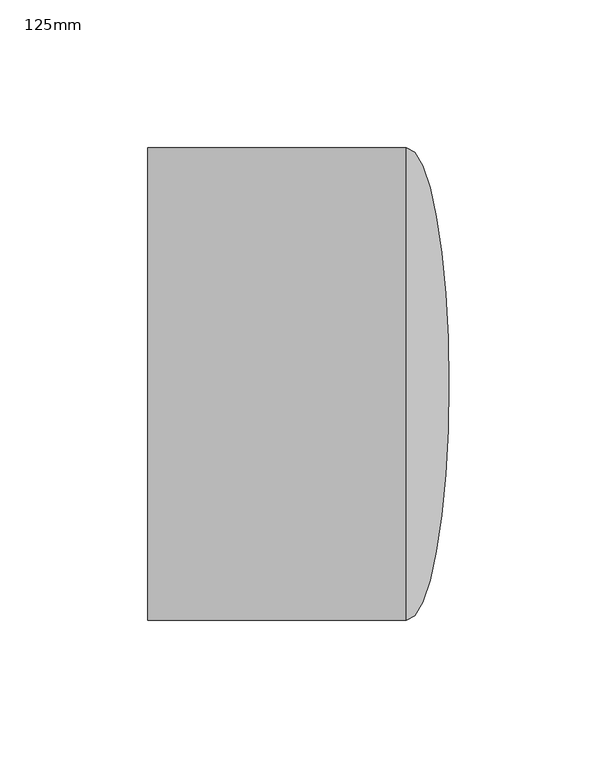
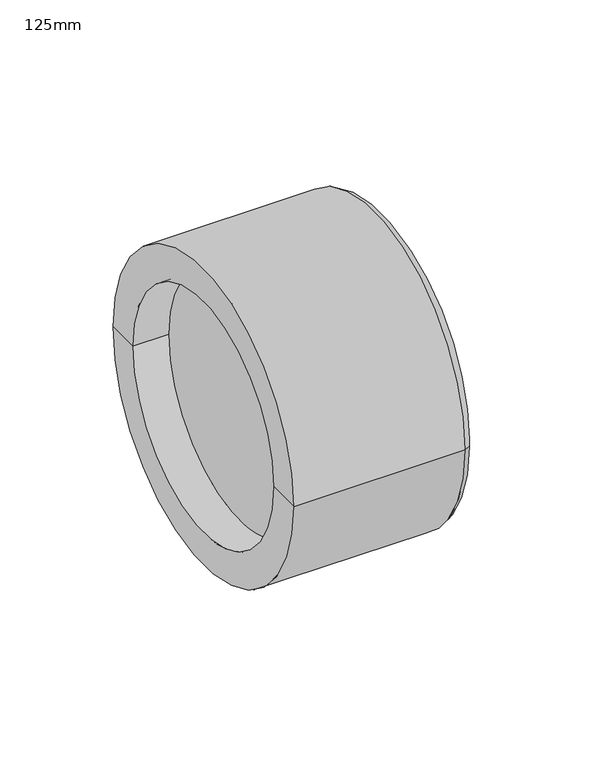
"""IFC4 building model written with IfcOpenShell, lengths in millimetres: pipe fitting geometry, PipeFitting_HTA_CPVC_Caps : 125mm."""

from ifc_helpers import new_model, si_unit, point, frame, origin, place, context, project, spatial, polyline, circle_curve, ellipse_curve, trimmed, source, transform, mapped, element, save
from ifc_brep_helpers import plane_surface, cylinder_surface, revolved_surface, advanced_brep


def pipe_fitting_125mm_82ba565d(model_context):
    return source(origin(), model_context, "Body", "AdvancedBrep", [
        advanced_brep(
        [(36.6, -80.0, 0.0), (36.6, 80.0, 0.0), (51.0, 0.0, 0.0), (-51.0, -80.0, 0.0), (-51.0, 80.0, 0.0), (-51.0, -62.5, 0.0), (-51.0, 62.5, 0.0), (-32.4296875, -62.5, 0.0), (-32.4296875, 62.5, 0.0)],
        [
            (0, 1, circle_curve(frame((36.6, 0.0, 0.0), z_axis=(1.0, 0.0, 0.0), x_axis=(0.0, 1.0, 0.0)), 80.0)),
            (1, 2, ellipse_curve(frame((36.6, 0.0, 0.0), z_axis=(0.0, 0.0, -1.0), x_axis=(0.0, 1.0, 0.0)), 80.0, 14.4)),
            (2, 0, ellipse_curve(frame((36.6, 0.0, 0.0), z_axis=(0.0, 0.0, -1.0), x_axis=(0.0, -1.0, 0.0)), 80.0, 14.4)),
            (1, 0, circle_curve(frame((36.6, 0.0, 0.0), z_axis=(1.0, 0.0, 0.0), x_axis=(0.0, 1.0, 0.0)), 80.0)),
            (0, 3),
            (3, 4, circle_curve(frame((-51.0, 0.0, 0.0), z_axis=(1.0, 0.0, 0.0), x_axis=(0.0, 1.0, 0.0)), 80.0)),
            (4, 1),
            (4, 3, circle_curve(frame((-51.0, 0.0, 0.0), z_axis=(1.0, 0.0, 0.0), x_axis=(0.0, 1.0, 0.0)), 80.0)),
            (3, 5),
            (5, 6, circle_curve(frame((-51.0, 0.0, 0.0), z_axis=(1.0, 0.0, 0.0), x_axis=(0.0, 1.0, 0.0)), 62.5)),
            (6, 4),
            (6, 5, circle_curve(frame((-51.0, 0.0, 0.0), z_axis=(1.0, 0.0, 0.0), x_axis=(0.0, 1.0, 0.0)), 62.5)),
            (7, 8, circle_curve(frame((-32.4296875, 0.0, 0.0), z_axis=(-1.0, 0.0, 0.0), x_axis=(0.0, 1.0, 0.0)), 62.5)),
            (8, 7, circle_curve(frame((-32.4296875, 0.0, 0.0), z_axis=(-1.0, 0.0, 0.0), x_axis=(0.0, 1.0, 0.0)), 62.5)),
            (8, 6),
            (5, 7),
        ],
        [
            revolved_surface(trimmed(ellipse_curve(frame((36.6, 0.0, 0.0), z_axis=(0.0, 0.0, 1.0), x_axis=(0.0, 1.0, 0.0)), 80.0, 14.4), [point((51.0, 0.0, 0.0))], [point((36.6, 80.0, 0.0))], True, "CARTESIAN"), (-380.0, 0.0, 0.0), (-1.0, 0.0, 0.0)),
            cylinder_surface(frame((-380.0, 0.0, 0.0), z_axis=(-1.0, 0.0, 0.0), x_axis=(0.0, 1.0, 0.0)), 80.0),
            plane_surface(frame((-51.0, 0.0, 0.0), z_axis=(-1.0, 0.0, 0.0), x_axis=(0.0, 1.0, 0.0))),
            plane_surface(frame((-32.4296875, 62.5, 0.0), z_axis=(-1.0, 0.0, 0.0), x_axis=(0.0, 0.0, 1.0))),
            revolved_surface(polyline([(-32.4296875, 62.5, 0.0), (-51.0, 62.5, 0.0)]), (-51.0, 0.0, 0.0), (1.0, 0.0, 0.0)),
        ],
        [
            (0, [[1, 2, 3]]),
            (0, [[-2, 4, -3]]),
            (1, [[-1, 5, 6, 7]]),
            (1, [[-4, -7, 8, -5]]),
            (2, [[-6, 9, 10, 11]]),
            (2, [[-8, -11, 12, -9]]),
            (3, [[13, 14]]),
            (4, [[-14, 15, -10, 16]]),
            (4, [[-13, -16, -12, -15]]),
        ],
    ),
    ])


if __name__ == "__main__":
    model = new_model("IFC4")
    model_context = context("Model", 3, world=origin())
    ifc_project = project(units=[si_unit("LENGTHUNIT", "METRE", prefix="MILLI")], contexts=[model_context])
    site = spatial("IfcSite", under=ifc_project)
    building = spatial("IfcBuilding", under=site)
    placement = place(None, origin())
    pipe_fitting_125mm_shape = pipe_fitting_125mm_82ba565d(model_context)
    element("IfcPipeFitting", 1, ObjectType="PipeFitting_HTA_CPVC_Caps : 125mm", at=placement, inside=building, context=model_context, shape_type="MappedRepresentation", body=[
        mapped(pipe_fitting_125mm_shape, transform((0.0, 0.0, 0.0), x_axis=(1.0, 0.0, 0.0), y_axis=(0.0, 1.0, 0.0), z_axis=(0.0, 0.0, 1.0))),
    ])
    save(model, "model.ifc")
